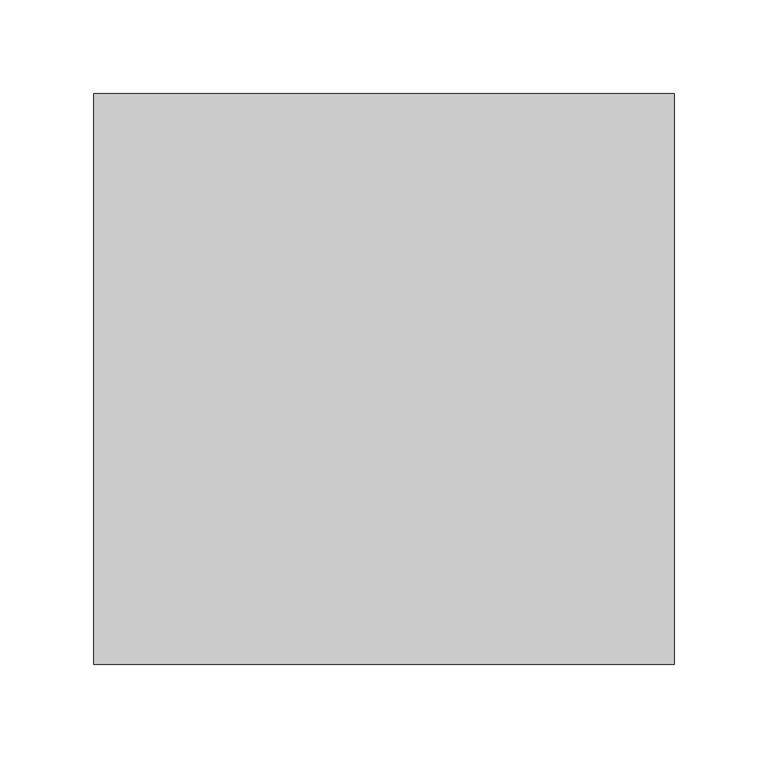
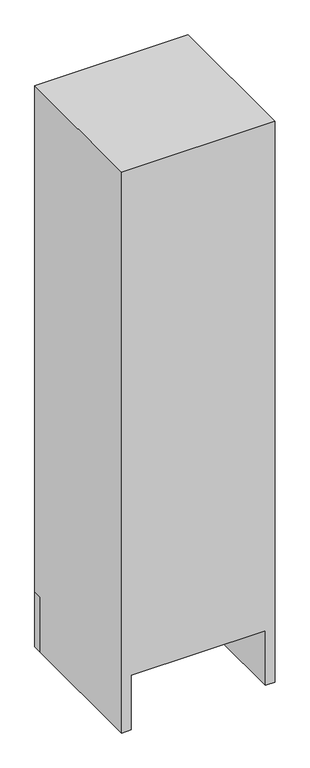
"""IFC4 building model written with IfcOpenShell, lengths in millimetres: furniture geometry, Hamilton-Sorter_Modular-Casework_Storage-Cabinet_Open : Hamilton-Sorter_Modular-Casework_Storage-Cabinet_Open 2."""

from ifc_helpers import new_model, si_unit, frame, origin, origin_with_axes, place, context, project, spatial, polyline, outline, extrude, faceted_brep, source, transform, mapped, element, save


def furniture_91476ff9(model_context):
    return source(origin(), model_context, "Body", "SolidModel", [
        faceted_brep([(-135.95, 742.95, 116.8908), (-135.95, 457.0, 116.8908), (-135.95, 457.0, 0.0), (-135.95, 742.95, 0.0), (-135.95, 762.0, 1180.95), (-135.95, 482.4, 1180.95), (-135.95, 482.4, 135.9408), (-135.95, 762.0, 135.9408), (-155.0, 762.0, 1200.0), (-155.0, 762.0, 116.8908), (-155.0, 742.95, 116.8908), (-155.0, 742.95, 0.0), (-155.0, 457.0, 0.0), (-155.0, 457.0, 1200.0), (155.0, 762.0, 1200.0), (155.0, 762.0, 0.0), (135.95, 762.0, 0.0), (135.95, 762.0, 116.8908), (135.95, 762.0, 135.9408), (135.95, 762.0, 1180.95), (135.95, 457.0, 116.8908), (135.95, 457.0, 0.0), (155.0, 457.0, 0.0), (155.0, 457.0, 1200.0), (135.95, 482.4, 1180.95), (135.95, 482.4, 135.9408)], [[[0, 1, 2, 3]], [[4, 5, 6, 7]], [[8, 9, 10, 11, 12, 13]], [[8, 14, 15, 16, 17, 9], [4, 7, 18, 19]], [[9, 17, 20, 1, 0, 10]], [[3, 11, 10, 0]], [[2, 12, 11, 3]], [[12, 2, 1, 20, 21, 22, 23, 13]], [[23, 14, 8, 13]], [[19, 24, 5, 4]], [[24, 25, 6, 5]], [[25, 18, 7, 6]], [[14, 23, 22, 15]], [[21, 20, 17, 16]], [[18, 25, 24, 19]], [[22, 21, 16, 15]]]),
        extrude(outline(polyline([(155.0, 742.95), (-155.0, 742.95), (-155.0, 762.0), (155.0, 762.0), (155.0, 742.95)])), origin_with_axes(), (0.0, 0.0, 1.0), 116.8908),
        extrude(outline(polyline([(135.95, 482.4), (-135.95, 482.4), (-135.95, 758.825), (135.95, 758.825), (135.95, 482.4)])), frame((0.0, 0.0, 919.6977), z_axis=(0.0, 0.0, 1.0), x_axis=(1.0, 0.0, 0.0)), (0.0, 0.0, 1.0), 19.05),
        extrude(outline(polyline([(135.95, 482.4), (-135.95, 482.4), (-135.95, 758.825), (135.95, 758.825), (135.95, 482.4)])), frame((0.0, 0.0, 397.1931), z_axis=(0.0, 0.0, 1.0), x_axis=(1.0, 0.0, 0.0)), (0.0, 0.0, 1.0), 19.05),
        extrude(outline(polyline([(135.95, 482.4), (-135.95, 482.4), (-135.95, 758.825), (135.95, 758.825), (135.95, 482.4)])), frame((0.0, 0.0, 658.4454), z_axis=(0.0, 0.0, 1.0), x_axis=(1.0, 0.0, 0.0)), (0.0, 0.0, 1.0), 19.05),
    ])


if __name__ == "__main__":
    model = new_model("IFC4")
    model_context = context("Model", 3, world=origin())
    ifc_project = project(units=[si_unit("LENGTHUNIT", "METRE", prefix="MILLI")], contexts=[model_context])
    site = spatial("IfcSite", under=ifc_project)
    building = spatial("IfcBuilding", under=site)
    placement = place(None, origin())
    furniture_shape = furniture_91476ff9(model_context)
    element("IfcFurniture", 1, ObjectType="Hamilton-Sorter_Modular-Casework_Storage-Cabinet_Open : Hamilton-Sorter_Modular-Casework_Storage-Cabinet_Open 2", at=placement, inside=building, context=model_context, shape_type="MappedRepresentation", body=[
        mapped(furniture_shape, transform((0.0, 0.0, 0.0), x_axis=(1.0, 0.0, 0.0), y_axis=(0.0, 1.0, 0.0), z_axis=(0.0, 0.0, 1.0))),
    ])
    save(model, "model.ifc")
